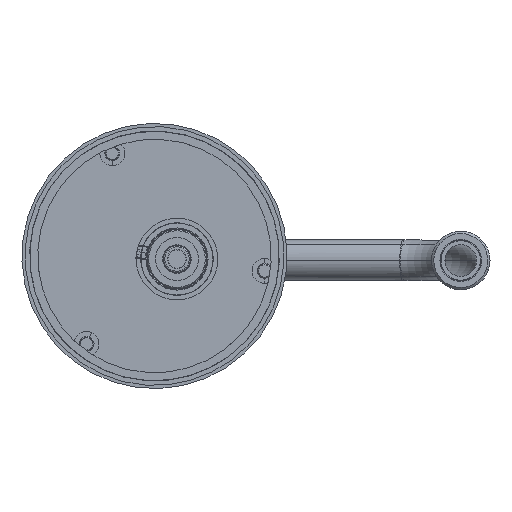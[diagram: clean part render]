
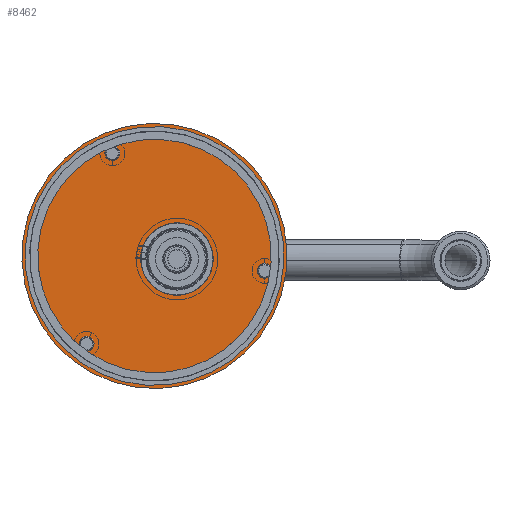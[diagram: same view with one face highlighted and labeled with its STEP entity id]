
A CAD part, left-side view. The second image highlights one B-rep face of the part: STEP entity #8462.
In plain terms, the highlighted planar face has unit normal (-1, 0, 0) as drawn and (0, 1, 0) by its records, which use the part's own axes.
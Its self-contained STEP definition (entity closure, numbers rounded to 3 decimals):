
#100 = EDGE_LOOP ( 'NONE', ( #13723, #2614 ) ) ;
#279 = DIRECTION ( 'NONE',  ( 0., 1., 0. ) ) ;
#327 = CARTESIAN_POINT ( 'NONE',  ( 24.5, 2., -45.735 ) ) ;
#514 = CIRCLE ( 'NONE', #11064, 3.3 ) ;
#559 = EDGE_CURVE ( 'NONE', #5486, #3832, #8217, .T. ) ;
#780 = CIRCLE ( 'NONE', #9701, 3.3 ) ;
#782 = EDGE_LOOP ( 'NONE', ( #13307, #1929 ) ) ;
#974 = CARTESIAN_POINT ( 'NONE',  ( -49., 2., -3.3 ) ) ;
#997 = DIRECTION ( 'NONE',  ( 0., 1., 0. ) ) ;
#1463 = EDGE_LOOP ( 'NONE', ( #3743, #9325 ) ) ;
#1579 = VERTEX_POINT ( 'NONE', #974 ) ;
#1929 = ORIENTED_EDGE ( 'NONE', *, *, #14361, .F. ) ;
#2124 = ORIENTED_EDGE ( 'NONE', *, *, #2317, .T. ) ;
#2262 = CARTESIAN_POINT ( 'NONE',  ( 24.5, 2., -42.435 ) ) ;
#2317 = EDGE_CURVE ( 'NONE', #5062, #16279, #15495, .T. ) ;
#2474 = FACE_OUTER_BOUND ( 'NONE', #3839, .T. ) ;
#2500 = CARTESIAN_POINT ( 'NONE',  ( 24.5, 2., 42.435 ) ) ;
#2614 = ORIENTED_EDGE ( 'NONE', *, *, #14039, .F. ) ;
#2736 = CARTESIAN_POINT ( 'NONE',  ( 0., 2., 0. ) ) ;
#2955 = VERTEX_POINT ( 'NONE', #16500 ) ;
#3140 = DIRECTION ( 'NONE',  ( 0., 0., 1. ) ) ;
#3362 = EDGE_CURVE ( 'NONE', #10768, #4792, #6029, .T. ) ;
#3743 = ORIENTED_EDGE ( 'NONE', *, *, #3362, .F. ) ;
#3827 = FACE_BOUND ( 'NONE', #8116, .T. ) ;
#3832 = VERTEX_POINT ( 'NONE', #4086 ) ;
#3839 = EDGE_LOOP ( 'NONE', ( #2124, #7643 ) ) ;
#4086 = CARTESIAN_POINT ( 'NONE',  ( 24.5, 2., -39.135 ) ) ;
#4264 = CARTESIAN_POINT ( 'NONE',  ( 0., 2., 0. ) ) ;
#4265 = AXIS2_PLACEMENT_3D ( 'NONE', #2736, #6442, #7800 ) ;
#4505 = CARTESIAN_POINT ( 'NONE',  ( 24.5, 2., 42.435 ) ) ;
#4571 = CARTESIAN_POINT ( 'NONE',  ( -10., 2., 0. ) ) ;
#4686 = VERTEX_POINT ( 'NONE', #14041 ) ;
#4721 = CARTESIAN_POINT ( 'NONE',  ( 24.5, 2., 39.135 ) ) ;
#4792 = VERTEX_POINT ( 'NONE', #11836 ) ;
#4885 = AXIS2_PLACEMENT_3D ( 'NONE', #13480, #6961, #5689 ) ;
#5062 = VERTEX_POINT ( 'NONE', #13154 ) ;
#5230 = DIRECTION ( 'NONE',  ( 0., 1., 0. ) ) ;
#5486 = VERTEX_POINT ( 'NONE', #327 ) ;
#5689 = DIRECTION ( 'NONE',  ( 0., 0., 1. ) ) ;
#5695 = DIRECTION ( 'NONE',  ( 0., 1., 0. ) ) ;
#6029 = CIRCLE ( 'NONE', #6574, 3.3 ) ;
#6137 = AXIS2_PLACEMENT_3D ( 'NONE', #4571, #997, #12290 ) ;
#6247 = CIRCLE ( 'NONE', #4885, 58.5 ) ;
#6359 = FACE_BOUND ( 'NONE', #100, .T. ) ;
#6384 = ORIENTED_EDGE ( 'NONE', *, *, #8767, .F. ) ;
#6415 = CARTESIAN_POINT ( 'NONE',  ( -49., 2., 3.3 ) ) ;
#6442 = DIRECTION ( 'NONE',  ( 0., 1., 0. ) ) ;
#6517 = EDGE_CURVE ( 'NONE', #16279, #5062, #6247, .T. ) ;
#6531 = FACE_BOUND ( 'NONE', #782, .T. ) ;
#6574 = AXIS2_PLACEMENT_3D ( 'NONE', #2500, #10276, #6637 ) ;
#6637 = DIRECTION ( 'NONE',  ( 0., 0., 1. ) ) ;
#6673 = AXIS2_PLACEMENT_3D ( 'NONE', #11897, #279, #15776 ) ;
#6961 = DIRECTION ( 'NONE',  ( 0., 1., 0. ) ) ;
#7034 = CARTESIAN_POINT ( 'NONE',  ( 24.5, 2., -42.435 ) ) ;
#7639 = PLANE ( 'NONE',  #4265 ) ;
#7643 = ORIENTED_EDGE ( 'NONE', *, *, #6517, .T. ) ;
#7800 = DIRECTION ( 'NONE',  ( 0., 0., 1. ) ) ;
#7971 = FACE_BOUND ( 'NONE', #1463, .T. ) ;
#8116 = EDGE_LOOP ( 'NONE', ( #10445, #6384 ) ) ;
#8156 = DIRECTION ( 'NONE',  ( 0., 0., 1. ) ) ;
#8201 = AXIS2_PLACEMENT_3D ( 'NONE', #4264, #5695, #8156 ) ;
#8217 = CIRCLE ( 'NONE', #12283, 3.3 ) ;
#8254 = EDGE_CURVE ( 'NONE', #4686, #2955, #16396, .T. ) ;
#8462 = ADVANCED_FACE ( 'NONE', ( #7971, #3827, #2474, #6531, #6359 ), #7639, .T. ) ;
#8767 = EDGE_CURVE ( 'NONE', #2955, #4686, #11014, .T. ) ;
#9325 = ORIENTED_EDGE ( 'NONE', *, *, #13670, .F. ) ;
#9701 = AXIS2_PLACEMENT_3D ( 'NONE', #14134, #5230, #11587 ) ;
#9969 = CARTESIAN_POINT ( 'NONE',  ( -49., 2., 0. ) ) ;
#10056 = DIRECTION ( 'NONE',  ( 0., 1., 0. ) ) ;
#10276 = DIRECTION ( 'NONE',  ( 0., 1., 0. ) ) ;
#10445 = ORIENTED_EDGE ( 'NONE', *, *, #8254, .F. ) ;
#10516 = CIRCLE ( 'NONE', #13492, 3.3 ) ;
#10768 = VERTEX_POINT ( 'NONE', #4721 ) ;
#11014 = CIRCLE ( 'NONE', #6137, 16. ) ;
#11064 = AXIS2_PLACEMENT_3D ( 'NONE', #9969, #10056, #12445 ) ;
#11587 = DIRECTION ( 'NONE',  ( 0., 0., 1. ) ) ;
#11836 = CARTESIAN_POINT ( 'NONE',  ( 24.5, 2., 45.735 ) ) ;
#11897 = CARTESIAN_POINT ( 'NONE',  ( -10., 2., 0. ) ) ;
#12117 = DIRECTION ( 'NONE',  ( 0., 1., 0. ) ) ;
#12283 = AXIS2_PLACEMENT_3D ( 'NONE', #2262, #12513, #16550 ) ;
#12290 = DIRECTION ( 'NONE',  ( 0., 0., 1. ) ) ;
#12445 = DIRECTION ( 'NONE',  ( 0., 0., 1. ) ) ;
#12513 = DIRECTION ( 'NONE',  ( 0., 1., 0. ) ) ;
#13109 = VERTEX_POINT ( 'NONE', #6415 ) ;
#13154 = CARTESIAN_POINT ( 'NONE',  ( 0., 2., -58.5 ) ) ;
#13307 = ORIENTED_EDGE ( 'NONE', *, *, #14140, .F. ) ;
#13480 = CARTESIAN_POINT ( 'NONE',  ( 0., 2., 0. ) ) ;
#13492 = AXIS2_PLACEMENT_3D ( 'NONE', #7034, #12117, #3140 ) ;
#13670 = EDGE_CURVE ( 'NONE', #4792, #10768, #15099, .T. ) ;
#13723 = ORIENTED_EDGE ( 'NONE', *, *, #559, .F. ) ;
#14039 = EDGE_CURVE ( 'NONE', #3832, #5486, #10516, .T. ) ;
#14041 = CARTESIAN_POINT ( 'NONE',  ( -10., 2., -16. ) ) ;
#14134 = CARTESIAN_POINT ( 'NONE',  ( -49., 2., 0. ) ) ;
#14140 = EDGE_CURVE ( 'NONE', #1579, #13109, #514, .T. ) ;
#14305 = AXIS2_PLACEMENT_3D ( 'NONE', #4505, #14825, #14908 ) ;
#14361 = EDGE_CURVE ( 'NONE', #13109, #1579, #780, .T. ) ;
#14825 = DIRECTION ( 'NONE',  ( 0., 1., 0. ) ) ;
#14908 = DIRECTION ( 'NONE',  ( 0., 0., 1. ) ) ;
#15099 = CIRCLE ( 'NONE', #14305, 3.3 ) ;
#15180 = CARTESIAN_POINT ( 'NONE',  ( 0., 2., 58.5 ) ) ;
#15495 = CIRCLE ( 'NONE', #8201, 58.5 ) ;
#15776 = DIRECTION ( 'NONE',  ( 0., 0., 1. ) ) ;
#16279 = VERTEX_POINT ( 'NONE', #15180 ) ;
#16396 = CIRCLE ( 'NONE', #6673, 16. ) ;
#16500 = CARTESIAN_POINT ( 'NONE',  ( -10., 2., 16. ) ) ;
#16550 = DIRECTION ( 'NONE',  ( 0., 0., 1. ) ) ;
